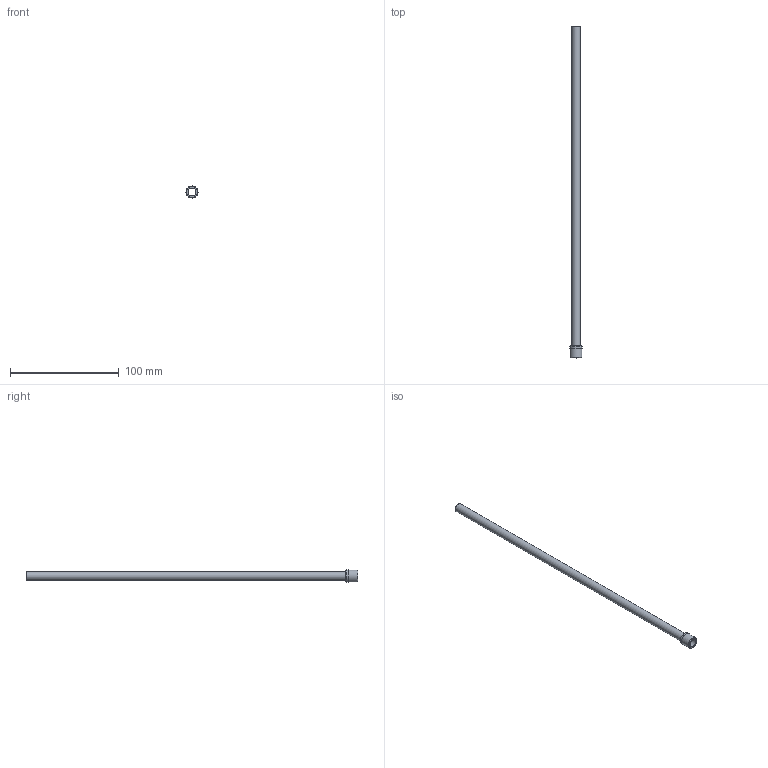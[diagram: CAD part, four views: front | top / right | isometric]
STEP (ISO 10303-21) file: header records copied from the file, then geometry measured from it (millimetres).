
FILE_DESCRIPTION(/* description */ (''),/* implementation_level */ '2;1');
FILE_NAME(/* name */ 'C:/Users/drich/Desktop/JHF312T-12 v1.step',/* time_stamp */ '2020-01-02T19:59:19-06:00',/* author */ (''),/* organization */ (''),/* preprocessor_version */ 'ST-DEVELOPER v18',/* originating_system */ 'Autodesk Translation Framework v8.12.0.6',/* authorisation */ '');
FILE_SCHEMA (('AUTOMOTIVE_DESIGN { 1 0 10303 214 3 1 1 }'));
Length unit declared in the file: inch
Products named in the file (1): JHF312T-12
Bounding box: 11.15 x 304.8 x 11.15 mm (x, y, z)
Volume: 2734.2 mm3; surface area: 14799.4 mm2
Topology: 1 solids, 1 shells, 10 faces, 24 edges, 18 vertices
Faces by surface type: cylinder 4, plane 4, cone 1, torus 1
Full cylindrical faces by diameter (mm): 7.315 x1, 7.925 x1, 11.011 x1, 11.151 x1
Entity records: 354 total; most frequent: DIRECTION 65, CARTESIAN_POINT 53, ORIENTED_EDGE 48, AXIS2_PLACEMENT_3D 30, EDGE_CURVE 24, CIRCLE 19, VERTEX_POINT 18, EDGE_LOOP 14
